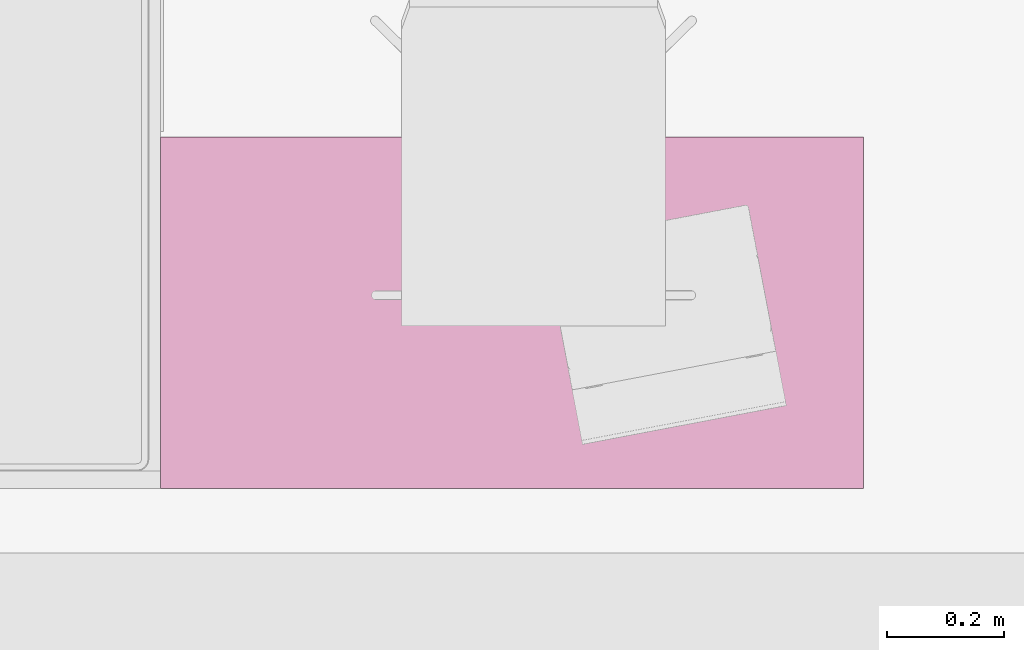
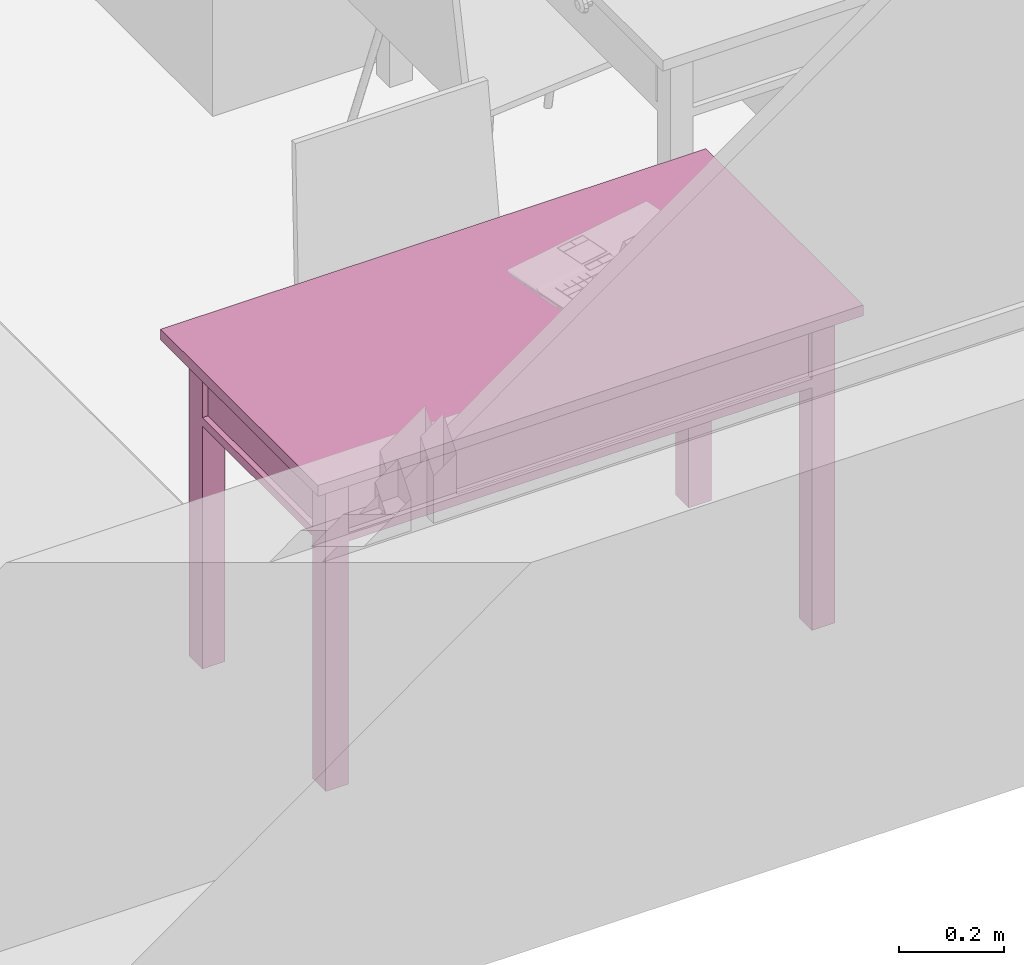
# One storey, part 83 of 165: 1 furnishing.
"""IFC2X3 building model written with IfcOpenShell, lengths in millimetres."""

from ifc_helpers import new_model, entity, si_unit, converted_unit, money_unit, direction, frame, origin_with_axes, place, context, subcontext, project, spatial, faceted_brep, source, transform, mapped, material, material_list, type_object, element, save


model = new_model("IFC2X3")

# Units and contexts
model_context = context("Model", 3, precision=1e-05, world=origin_with_axes(), true_north=direction((0.0, 1.0)))
body_context = subcontext(model_context, "Body", "Model", "MODEL_VIEW")
ifc_project = project(units=[si_unit("LENGTHUNIT", "METRE", prefix="MILLI"), si_unit("AREAUNIT", "SQUARE_METRE"), si_unit("VOLUMEUNIT", "CUBIC_METRE"), converted_unit("PLANEANGLEUNIT", "DEGREE", entity("IfcPlaneAngleMeasure", 0.0174532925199), si_unit("PLANEANGLEUNIT", "RADIAN"), dimensions=[0, 0, 0, 0, 0, 0, 0]), si_unit("SOLIDANGLEUNIT", "STERADIAN"), money_unit("USD"), converted_unit("TIMEUNIT", "Year", entity("IfcTimeMeasure", 31556926.0), si_unit("TIMEUNIT", "SECOND"), dimensions=[0, 0, 0, 0, 0, 0, 0]), si_unit("MASSUNIT", "GRAM"), si_unit("THERMODYNAMICTEMPERATUREUNIT", "DEGREE_CELSIUS"), si_unit("LUMINOUSINTENSITYUNIT", "LUMEN")], contexts=[model_context])

# Site, building, storey
site_placement = place(None, origin_with_axes())
site = spatial("IfcSite", under=ifc_project, at=site_placement, Name="Site", CompositionType="ELEMENT")
building_placement = place(site_placement, origin_with_axes())
building = spatial("IfcBuilding", under=site, at=building_placement, Name="Building", CompositionType="ELEMENT")
storey_placement = place(building_placement, frame((0.0, 0.0, 6300.0), z_axis=(0.0, 0.0, 1.0), x_axis=(1.0, 0.0, 0.0)))
storey = spatial("IfcBuildingStorey", under=building, at=storey_placement, Name="4KORRUS", CompositionType="ELEMENT", Elevation=6300.0)

# Furnishing
ifc_material = material(Name="Background")
ifc_material_list = material_list([ifc_material])
furnishing_element_type = type_object("IfcFurnishingElementType", Name="Rectangular Table 01 19")
shared_shape = source(origin_with_axes(), body_context, "Body", "Brep", [
    faceted_brep([(90.0, 40.0, 0.0), (40.0, 40.0, 0.0), (40.0, 90.0, 0.0), (90.0, 90.0, 0.0), (90.0, 40.0, 725.0), (40.0, 40.0, 725.0), (40.0, 90.0, 725.0), (90.0, 90.0, 725.0)], [[[0, 1, 2, 3]], [[1, 0, 4, 5]], [[2, 1, 5, 6]], [[3, 2, 6, 7]], [[0, 3, 7, 4]], [[5, 4, 7, 6]]]),
    faceted_brep([(1160.0, 40.0, 0.0), (1110.0, 40.0, 0.0), (1110.0, 90.0, 0.0), (1160.0, 90.0, 0.0), (1160.0, 40.0, 725.0), (1110.0, 40.0, 725.0), (1110.0, 90.0, 725.0), (1160.0, 90.0, 725.0)], [[[0, 1, 2, 3]], [[1, 0, 4, 5]], [[2, 1, 5, 6]], [[3, 2, 6, 7]], [[0, 3, 7, 4]], [[5, 4, 7, 6]]]),
    faceted_brep([(90.0, 510.0, 0.0), (40.0, 510.0, 0.0), (40.0, 560.0, 0.0), (90.0, 560.0, 0.0), (90.0, 510.0, 725.0), (40.0, 510.0, 725.0), (40.0, 560.0, 725.0), (90.0, 560.0, 725.0)], [[[0, 1, 2, 3]], [[1, 0, 4, 5]], [[2, 1, 5, 6]], [[3, 2, 6, 7]], [[0, 3, 7, 4]], [[5, 4, 7, 6]]]),
    faceted_brep([(1160.0, 510.0, 0.0), (1110.0, 510.0, 0.0), (1110.0, 560.0, 0.0), (1160.0, 560.0, 0.0), (1160.0, 510.0, 725.0), (1110.0, 510.0, 725.0), (1110.0, 560.0, 725.0), (1160.0, 560.0, 725.0)], [[[0, 1, 2, 3]], [[1, 0, 4, 5]], [[2, 1, 5, 6]], [[3, 2, 6, 7]], [[0, 3, 7, 4]], [[5, 4, 7, 6]]]),
    faceted_brep([(1160.0, 40.0, 565.0), (40.0, 40.0, 565.0), (40.0, 560.0, 565.0), (1160.0, 560.0, 565.0), (1160.0, 40.0, 585.0), (40.0, 40.0, 585.0), (40.0, 560.0, 585.0), (1160.0, 560.0, 585.0)], [[[0, 1, 2, 3]], [[1, 0, 4, 5]], [[2, 1, 5, 6]], [[3, 2, 6, 7]], [[0, 3, 7, 4]], [[5, 4, 7, 6]]]),
    faceted_brep([(1110.0, 52.5, 585.0), (90.0, 52.5, 585.0), (90.0, 77.5, 585.0), (1110.0, 77.5, 585.0), (1110.0, 52.5, 745.0), (90.0, 52.5, 745.0), (90.0, 77.5, 745.0), (1110.0, 77.5, 745.0)], [[[0, 1, 2, 3]], [[1, 0, 4, 5]], [[2, 1, 5, 6]], [[3, 2, 6, 7]], [[0, 3, 7, 4]], [[5, 4, 7, 6]]]),
    faceted_brep([(77.5, 90.0, 585.0), (52.5, 90.0, 585.0), (52.5, 510.0, 585.0), (77.5, 510.0, 585.0), (77.5, 90.0, 745.0), (52.5, 90.0, 745.0), (52.5, 510.0, 745.0), (77.5, 510.0, 745.0)], [[[0, 1, 2, 3]], [[1, 0, 4, 5]], [[2, 1, 5, 6]], [[3, 2, 6, 7]], [[0, 3, 7, 4]], [[5, 4, 7, 6]]]),
    faceted_brep([(90.0, 547.5, 585.0), (1110.0, 547.5, 585.0), (1110.0, 522.5, 585.0), (90.0, 522.5, 585.0), (90.0, 547.5, 745.0), (1110.0, 547.5, 745.0), (1110.0, 522.5, 745.0), (90.0, 522.5, 745.0)], [[[0, 1, 2, 3]], [[1, 0, 4, 5]], [[2, 1, 5, 6]], [[3, 2, 6, 7]], [[0, 3, 7, 4]], [[5, 4, 7, 6]]]),
    faceted_brep([(1122.5, 510.0, 585.0), (1147.5, 510.0, 585.0), (1147.5, 90.0, 585.0), (1122.5, 90.0, 585.0), (1122.5, 510.0, 745.0), (1147.5, 510.0, 745.0), (1147.5, 90.0, 745.0), (1122.5, 90.0, 745.0)], [[[0, 1, 2, 3]], [[1, 0, 4, 5]], [[2, 1, 5, 6]], [[3, 2, 6, 7]], [[0, 3, 7, 4]], [[5, 4, 7, 6]]]),
    faceted_brep([(597.5, 40.0, 585.0), (95.0, 40.0, 585.0), (95.0, 60.0, 585.0), (597.5, 60.0, 585.0), (597.5, 40.0, 745.0), (95.0, 40.0, 745.0), (95.0, 60.0, 745.0), (597.5, 60.0, 745.0)], [[[0, 1, 2, 3]], [[1, 0, 4, 5]], [[2, 1, 5, 6]], [[3, 2, 6, 7]], [[0, 3, 7, 4]], [[5, 4, 7, 6]]]),
    faceted_brep([(1105.0, 40.0, 585.0), (602.5, 40.0, 585.0), (602.5, 60.0, 585.0), (1105.0, 60.0, 585.0), (1105.0, 40.0, 745.0), (602.5, 40.0, 745.0), (602.5, 60.0, 745.0), (1105.0, 60.0, 745.0)], [[[0, 1, 2, 3]], [[1, 0, 4, 5]], [[2, 1, 5, 6]], [[3, 2, 6, 7]], [[0, 3, 7, 4]], [[5, 4, 7, 6]]]),
    faceted_brep([(354.91, 40.0, 660.0), (351.25, 40.0, 656.34), (346.25, 40.0, 655.0), (341.25, 40.0, 656.34), (337.59, 40.0, 660.0), (336.25, 40.0, 665.0), (337.59, 40.0, 670.0), (341.25, 40.0, 673.66), (346.25, 40.0, 675.0), (351.25, 40.0, 673.66), (354.91, 40.0, 670.0), (356.25, 40.0, 665.0), (354.91, 25.0, 660.0), (351.25, 25.0, 656.34), (346.25, 25.0, 655.0), (341.25, 25.0, 656.34), (337.59, 25.0, 660.0), (336.25, 25.0, 665.0), (337.59, 25.0, 670.0), (341.25, 25.0, 673.66), (346.25, 25.0, 675.0), (351.25, 25.0, 673.66), (354.91, 25.0, 670.0), (356.25, 25.0, 665.0)], [[[0, 1, 2, 3, 4, 5, 6, 7, 8, 9, 10, 11]], [[1, 0, 12, 13]], [[2, 1, 13, 14]], [[3, 2, 14, 15]], [[4, 3, 15, 16]], [[5, 4, 16, 17]], [[6, 5, 17, 18]], [[7, 6, 18, 19]], [[8, 7, 19, 20]], [[9, 8, 20, 21]], [[10, 9, 21, 22]], [[11, 10, 22, 23]], [[0, 11, 23, 12]], [[12, 23, 22, 21, 20, 19, 18, 17, 16, 15, 14, 13]]]),
    faceted_brep([(356.25, 12.01, 665.0), (346.25, 10.0, 665.0), (354.91, 12.01, 660.0), (354.91, 12.01, 670.0), (351.25, 12.01, 656.34), (363.571, 17.5, 665.0), (361.25, 17.5, 656.34), (351.25, 12.01, 673.66), (361.25, 17.5, 673.66), (346.25, 12.01, 655.0), (354.91, 17.5, 650.0), (366.25, 25.0, 665.0), (363.571, 25.0, 655.0), (346.25, 12.01, 675.0), (354.91, 17.5, 680.0), (363.571, 25.0, 675.0), (341.25, 12.01, 656.34), (346.25, 17.5, 647.679), (356.25, 25.0, 647.679), (346.25, 25.0, 645.0), (336.25, 25.0, 647.679), (328.929, 25.0, 655.0), (326.25, 25.0, 665.0), (328.929, 25.0, 675.0), (336.25, 25.0, 682.321), (346.25, 25.0, 685.0), (356.25, 25.0, 682.321), (341.25, 12.01, 673.66), (346.25, 17.5, 682.321), (337.59, 12.01, 660.0), (337.59, 17.5, 650.0), (331.25, 17.5, 656.34), (328.929, 17.5, 665.0), (331.25, 17.5, 673.66), (337.59, 17.5, 680.0), (337.59, 12.01, 670.0), (336.25, 12.01, 665.0)], [[[0, 1, 2]], [[3, 1, 0]], [[2, 1, 4]], [[5, 0, 2, 6]], [[7, 1, 3]], [[8, 3, 0, 5]], [[4, 1, 9]], [[6, 2, 4, 10]], [[11, 5, 6, 12]], [[13, 1, 7]], [[14, 7, 3, 8]], [[15, 8, 5, 11]], [[9, 1, 16]], [[10, 4, 9, 17]], [[12, 6, 10, 18]], [[12, 18, 19, 20, 21, 22, 23, 24, 25, 26, 15, 11]], [[27, 1, 13]], [[28, 13, 7, 14]], [[26, 14, 8, 15]], [[16, 1, 29]], [[17, 9, 16, 30]], [[18, 10, 17, 19]], [[19, 17, 30, 20]], [[20, 30, 31, 21]], [[21, 31, 32, 22]], [[22, 32, 33, 23]], [[23, 33, 34, 24]], [[24, 34, 28, 25]], [[25, 28, 14, 26]], [[35, 1, 27]], [[34, 27, 13, 28]], [[29, 1, 36]], [[30, 16, 29, 31]], [[31, 29, 36, 32]], [[32, 36, 35, 33]], [[33, 35, 27, 34]], [[36, 1, 35]]]),
    faceted_brep([(862.41, 40.0, 660.0), (858.75, 40.0, 656.34), (853.75, 40.0, 655.0), (848.75, 40.0, 656.34), (845.09, 40.0, 660.0), (843.75, 40.0, 665.0), (845.09, 40.0, 670.0), (848.75, 40.0, 673.66), (853.75, 40.0, 675.0), (858.75, 40.0, 673.66), (862.41, 40.0, 670.0), (863.75, 40.0, 665.0), (862.41, 25.0, 660.0), (858.75, 25.0, 656.34), (853.75, 25.0, 655.0), (848.75, 25.0, 656.34), (845.09, 25.0, 660.0), (843.75, 25.0, 665.0), (845.09, 25.0, 670.0), (848.75, 25.0, 673.66), (853.75, 25.0, 675.0), (858.75, 25.0, 673.66), (862.41, 25.0, 670.0), (863.75, 25.0, 665.0)], [[[0, 1, 2, 3, 4, 5, 6, 7, 8, 9, 10, 11]], [[1, 0, 12, 13]], [[2, 1, 13, 14]], [[3, 2, 14, 15]], [[4, 3, 15, 16]], [[5, 4, 16, 17]], [[6, 5, 17, 18]], [[7, 6, 18, 19]], [[8, 7, 19, 20]], [[9, 8, 20, 21]], [[10, 9, 21, 22]], [[11, 10, 22, 23]], [[0, 11, 23, 12]], [[12, 23, 22, 21, 20, 19, 18, 17, 16, 15, 14, 13]]]),
    faceted_brep([(863.75, 12.01, 665.0), (853.75, 10.0, 665.0), (862.41, 12.01, 660.0), (862.41, 12.01, 670.0), (858.75, 12.01, 656.34), (871.071, 17.5, 665.0), (868.75, 17.5, 656.34), (858.75, 12.01, 673.66), (868.75, 17.5, 673.66), (853.75, 12.01, 655.0), (862.41, 17.5, 650.0), (873.75, 25.0, 665.0), (871.071, 25.0, 655.0), (853.75, 12.01, 675.0), (862.41, 17.5, 680.0), (871.071, 25.0, 675.0), (848.75, 12.01, 656.34), (853.75, 17.5, 647.679), (863.75, 25.0, 647.679), (853.75, 25.0, 645.0), (843.75, 25.0, 647.679), (836.429, 25.0, 655.0), (833.75, 25.0, 665.0), (836.429, 25.0, 675.0), (843.75, 25.0, 682.321), (853.75, 25.0, 685.0), (863.75, 25.0, 682.321), (848.75, 12.01, 673.66), (853.75, 17.5, 682.321), (845.09, 12.01, 660.0), (845.09, 17.5, 650.0), (838.75, 17.5, 656.34), (836.429, 17.5, 665.0), (838.75, 17.5, 673.66), (845.09, 17.5, 680.0), (845.09, 12.01, 670.0), (843.75, 12.01, 665.0)], [[[0, 1, 2]], [[3, 1, 0]], [[2, 1, 4]], [[5, 0, 2, 6]], [[7, 1, 3]], [[8, 3, 0, 5]], [[4, 1, 9]], [[6, 2, 4, 10]], [[11, 5, 6, 12]], [[13, 1, 7]], [[14, 7, 3, 8]], [[15, 8, 5, 11]], [[9, 1, 16]], [[10, 4, 9, 17]], [[12, 6, 10, 18]], [[12, 18, 19, 20, 21, 22, 23, 24, 25, 26, 15, 11]], [[27, 1, 13]], [[28, 13, 7, 14]], [[26, 14, 8, 15]], [[16, 1, 29]], [[17, 9, 16, 30]], [[18, 10, 17, 19]], [[19, 17, 30, 20]], [[20, 30, 31, 21]], [[21, 31, 32, 22]], [[22, 32, 33, 23]], [[23, 33, 34, 24]], [[24, 34, 28, 25]], [[25, 28, 14, 26]], [[35, 1, 27]], [[34, 27, 13, 28]], [[29, 1, 36]], [[30, 16, 29, 31]], [[31, 29, 36, 32]], [[32, 36, 35, 33]], [[33, 35, 27, 34]], [[36, 1, 35]]]),
    faceted_brep([(1200.0, 0.0, 725.0), (0.0, 0.0, 725.0), (0.0, 600.0, 725.0), (1200.0, 600.0, 725.0), (1200.0, 0.0, 750.0), (0.0, 0.0, 750.0), (0.0, 600.0, 750.0), (1200.0, 600.0, 750.0)], [[[0, 1, 2, 3]], [[1, 0, 4, 5]], [[2, 1, 5, 6]], [[3, 2, 6, 7]], [[0, 3, 7, 4]], [[5, 4, 7, 6]]]),
])
furnishing_placement = place(storey_placement, frame((-24965.2967033, -18929.2398994, 0.0), z_axis=(0.0, 0.0, 1.0), x_axis=(-1.0, 0.0, 0.0)))
element("IfcFurnishingElement", 1, at=furnishing_placement, inside=storey, type_object=furnishing_element_type, material=ifc_material_list, Name="FU - 011", context=body_context, shape_type="MappedRepresentation", body=[
    mapped(shared_shape, transform((0.0, 0.0, 0.0))),
])

save(model, "model.ifc")
